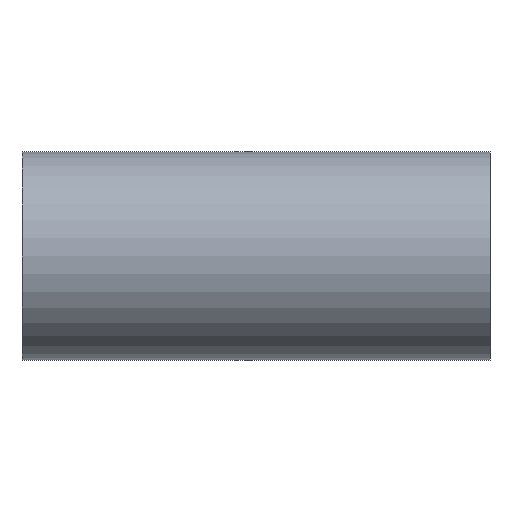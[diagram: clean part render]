
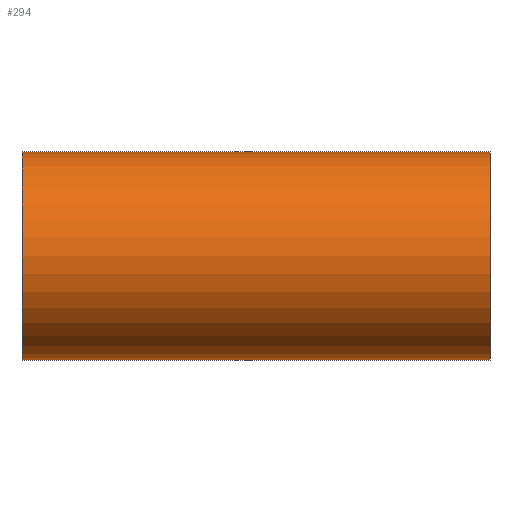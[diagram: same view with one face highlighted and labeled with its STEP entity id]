
A CAD part, front view. The second image highlights one B-rep face of the part: STEP entity #294.
In plain terms, the highlighted cylindrical face has radius 38.1 mm (diameter 76.2 mm), a partial arc.
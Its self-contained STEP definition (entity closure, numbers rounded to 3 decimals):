
#21 = LINE ( 'NONE', #190, #298 ) ;
#85 = CARTESIAN_POINT ( 'NONE',  ( 85.7, 0., -38.1 ) ) ;
#125 = AXIS2_PLACEMENT_3D ( 'NONE', #1168, #1135, #1125 ) ;
#132 = CARTESIAN_POINT ( 'NONE',  ( 85.7, 0., 0. ) ) ;
#164 = DIRECTION ( 'NONE',  ( 1., 0., 0. ) ) ;
#190 = CARTESIAN_POINT ( 'NONE',  ( -85.7, 0., 38.1 ) ) ;
#289 = VERTEX_POINT ( 'NONE', #507 ) ;
#294 = ADVANCED_FACE ( 'NONE', ( #1190 ), #664, .T. ) ;
#298 = VECTOR ( 'NONE', #741, 1000. ) ;
#326 = ORIENTED_EDGE ( 'NONE', *, *, #1241, .T. ) ;
#347 = CARTESIAN_POINT ( 'NONE',  ( -85.7, 0., -38.1 ) ) ;
#498 = CARTESIAN_POINT ( 'NONE',  ( -85.7, 0., 0. ) ) ;
#507 = CARTESIAN_POINT ( 'NONE',  ( 85.7, 0., 38.1 ) ) ;
#512 = DIRECTION ( 'NONE',  ( 0., 0., -1. ) ) ;
#536 = AXIS2_PLACEMENT_3D ( 'NONE', #132, #932, #825 ) ;
#540 = CIRCLE ( 'NONE', #125, 38.1 ) ;
#544 = VERTEX_POINT ( 'NONE', #990 ) ;
#566 = VERTEX_POINT ( 'NONE', #85 ) ;
#584 = ORIENTED_EDGE ( 'NONE', *, *, #1198, .F. ) ;
#623 = LINE ( 'NONE', #1051, #803 ) ;
#641 = ORIENTED_EDGE ( 'NONE', *, *, #712, .T. ) ;
#664 = CYLINDRICAL_SURFACE ( 'NONE', #1242, 38.1 ) ;
#692 = VERTEX_POINT ( 'NONE', #347 ) ;
#712 = EDGE_CURVE ( 'NONE', #566, #289, #855, .T. ) ;
#741 = DIRECTION ( 'NONE',  ( 1., 0., 0. ) ) ;
#803 = VECTOR ( 'NONE', #1039, 1000. ) ;
#825 = DIRECTION ( 'NONE',  ( 0., 0., -1. ) ) ;
#833 = ORIENTED_EDGE ( 'NONE', *, *, #1279, .T. ) ;
#855 = CIRCLE ( 'NONE', #536, 38.1 ) ;
#932 = DIRECTION ( 'NONE',  ( -1., 0., 0. ) ) ;
#990 = CARTESIAN_POINT ( 'NONE',  ( -85.7, 0., 38.1 ) ) ;
#1039 = DIRECTION ( 'NONE',  ( 1., 0., 0. ) ) ;
#1051 = CARTESIAN_POINT ( 'NONE',  ( -85.7, 0., -38.1 ) ) ;
#1125 = DIRECTION ( 'NONE',  ( 0., 0., -1. ) ) ;
#1135 = DIRECTION ( 'NONE',  ( 1., 0., 0. ) ) ;
#1147 = EDGE_LOOP ( 'NONE', ( #584, #326, #833, #641 ) ) ;
#1168 = CARTESIAN_POINT ( 'NONE',  ( -85.7, 0., 0. ) ) ;
#1190 = FACE_OUTER_BOUND ( 'NONE', #1147, .T. ) ;
#1198 = EDGE_CURVE ( 'NONE', #544, #289, #21, .T. ) ;
#1241 = EDGE_CURVE ( 'NONE', #544, #692, #540, .T. ) ;
#1242 = AXIS2_PLACEMENT_3D ( 'NONE', #498, #164, #512 ) ;
#1279 = EDGE_CURVE ( 'NONE', #692, #566, #623, .T. ) ;
